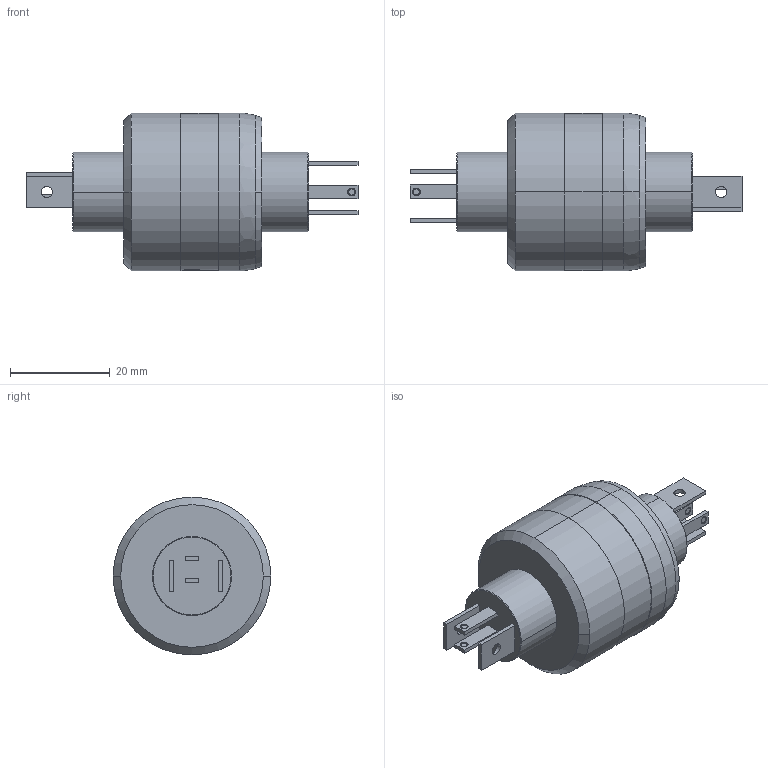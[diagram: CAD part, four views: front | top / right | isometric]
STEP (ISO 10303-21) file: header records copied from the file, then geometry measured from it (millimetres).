
FILE_DESCRIPTION (( 'STEP AP214' ), '1' );
FILE_NAME ('430.STEP', '2015-11-02T18:17:03', ( '' ), ( '' ), 'SwSTEP 2.0', 'SolidWorks 2014', '' );
FILE_SCHEMA (( 'AUTOMOTIVE_DESIGN' ));
Length unit declared in the file: inch
Products named in the file (1): 430
Bounding box: 66.58 x 31.65 x 31.65 mm (x, y, z)
Volume: 25316.9 mm3; surface area: 6078.3 mm2
Topology: 1 solids, 1 shells, 184 faces, 457 edges, 300 vertices
Faces by surface type: plane 96, bspline 38, cone 28, cylinder 22
Entity records: 8704 total; most frequent: CARTESIAN_POINT 4442, ORIENTED_EDGE 914, DIRECTION 774, EDGE_CURVE 457, VERTEX_POINT 300, LINE 274, VECTOR 274, AXIS2_PLACEMENT_3D 250
